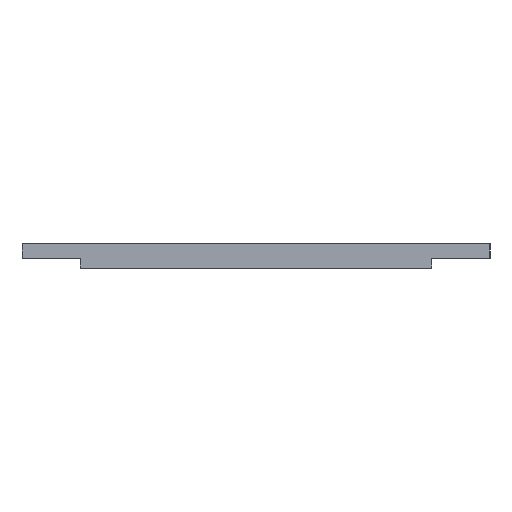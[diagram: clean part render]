
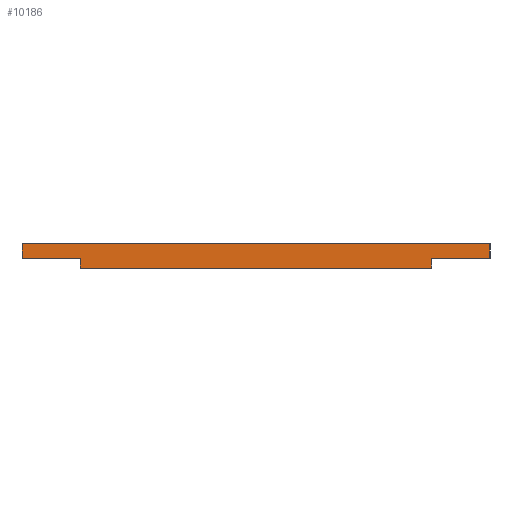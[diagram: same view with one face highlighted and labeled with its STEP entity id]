
A CAD part, left-side view. The second image highlights one B-rep face of the part: STEP entity #10186.
In plain terms, the highlighted planar face has unit normal (-1, 0, 0).
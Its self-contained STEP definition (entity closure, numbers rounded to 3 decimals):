
#156 = ORIENTED_EDGE ( 'NONE', *, *, #6951, .T. ) ;
#194 = VERTEX_POINT ( 'NONE', #11900 ) ;
#224 = CARTESIAN_POINT ( 'NONE',  ( -1442., 3., -0.17 ) ) ;
#229 = CARTESIAN_POINT ( 'NONE',  ( -1442., 0., 0.25 ) ) ;
#287 = EDGE_CURVE ( 'NONE', #5985, #5987, #7510, .T. ) ;
#419 = CARTESIAN_POINT ( 'NONE',  ( -1442., 2.6, 0.25 ) ) ;
#504 = CARTESIAN_POINT ( 'NONE',  ( -1442., -3., -0.17 ) ) ;
#658 = ORIENTED_EDGE ( 'NONE', *, *, #12324, .T. ) ;
#1008 = CARTESIAN_POINT ( 'NONE',  ( -1442., -2.6, 0.25 ) ) ;
#1085 = FACE_OUTER_BOUND ( 'NONE', #2245, .T. ) ;
#1161 = EDGE_CURVE ( 'NONE', #194, #10898, #10746, .T. ) ;
#1212 = EDGE_CURVE ( 'NONE', #5560, #4303, #9248, .T. ) ;
#1330 = CARTESIAN_POINT ( 'NONE',  ( -1442., 4., 0. ) ) ;
#1410 = ORIENTED_EDGE ( 'NONE', *, *, #287, .T. ) ;
#1883 = CARTESIAN_POINT ( 'NONE',  ( -1442., 0., 0.25 ) ) ;
#2100 = DIRECTION ( 'NONE',  ( 0., 0., 1. ) ) ;
#2126 = PLANE ( 'NONE',  #11991 ) ;
#2172 = CARTESIAN_POINT ( 'NONE',  ( -1442., -3., -0.17 ) ) ;
#2245 = EDGE_LOOP ( 'NONE', ( #2484, #156, #7783, #12639, #658, #11514, #4366, #11332, #6115, #1410, #11825, #10222 ) ) ;
#2375 = CARTESIAN_POINT ( 'NONE',  ( -1442., 0., 0. ) ) ;
#2484 = ORIENTED_EDGE ( 'NONE', *, *, #2925, .T. ) ;
#2600 = CARTESIAN_POINT ( 'NONE',  ( -1442., -4., 0.25 ) ) ;
#2660 = EDGE_CURVE ( 'NONE', #3899, #10898, #5983, .T. ) ;
#2925 = EDGE_CURVE ( 'NONE', #8060, #3725, #7419, .T. ) ;
#3243 = CARTESIAN_POINT ( 'NONE',  ( -1442., 0., 0.25 ) ) ;
#3725 = VERTEX_POINT ( 'NONE', #8617 ) ;
#3882 = CARTESIAN_POINT ( 'NONE',  ( -1442., -4., 0. ) ) ;
#3899 = VERTEX_POINT ( 'NONE', #3882 ) ;
#4081 = DIRECTION ( 'NONE',  ( 0., 0., -1. ) ) ;
#4294 = VERTEX_POINT ( 'NONE', #224 ) ;
#4303 = VERTEX_POINT ( 'NONE', #1008 ) ;
#4366 = ORIENTED_EDGE ( 'NONE', *, *, #6139, .T. ) ;
#4462 = DIRECTION ( 'NONE',  ( 0., -1., 0. ) ) ;
#4802 = VECTOR ( 'NONE', #2100, 1000. ) ;
#4873 = LINE ( 'NONE', #11653, #12210 ) ;
#4919 = LINE ( 'NONE', #12795, #5630 ) ;
#4978 = VECTOR ( 'NONE', #11077, 1000. ) ;
#5104 = CARTESIAN_POINT ( 'NONE',  ( -1442., 2.6, 0.25 ) ) ;
#5134 = LINE ( 'NONE', #6891, #4802 ) ;
#5197 = VERTEX_POINT ( 'NONE', #419 ) ;
#5198 = CARTESIAN_POINT ( 'NONE',  ( -1442., -4., 0.25 ) ) ;
#5226 = DIRECTION ( 'NONE',  ( 0., 0., 1. ) ) ;
#5560 = VERTEX_POINT ( 'NONE', #5104 ) ;
#5630 = VECTOR ( 'NONE', #9052, 1000. ) ;
#5843 = DIRECTION ( 'NONE',  ( 0., -1., 0. ) ) ;
#5908 = EDGE_CURVE ( 'NONE', #6825, #5197, #10970, .T. ) ;
#5983 = LINE ( 'NONE', #5198, #4978 ) ;
#5985 = VERTEX_POINT ( 'NONE', #1330 ) ;
#5987 = VERTEX_POINT ( 'NONE', #6313 ) ;
#6115 = ORIENTED_EDGE ( 'NONE', *, *, #8118, .T. ) ;
#6139 = EDGE_CURVE ( 'NONE', #5560, #5197, #5134, .T. ) ;
#6214 = DIRECTION ( 'NONE',  ( 0., -1., 0. ) ) ;
#6242 = VECTOR ( 'NONE', #4462, 1000. ) ;
#6248 = VECTOR ( 'NONE', #4081, 1000. ) ;
#6313 = CARTESIAN_POINT ( 'NONE',  ( -1442., 3., 0. ) ) ;
#6379 = EDGE_CURVE ( 'NONE', #8060, #4294, #8229, .T. ) ;
#6825 = VERTEX_POINT ( 'NONE', #9711 ) ;
#6891 = CARTESIAN_POINT ( 'NONE',  ( -1442., 2.6, -2971.755 ) ) ;
#6951 = EDGE_CURVE ( 'NONE', #3725, #3899, #4919, .T. ) ;
#7023 = CARTESIAN_POINT ( 'NONE',  ( -1442., 4., 0.25 ) ) ;
#7091 = LINE ( 'NONE', #7023, #11579 ) ;
#7204 = CARTESIAN_POINT ( 'NONE',  ( -1442., 0., -0.17 ) ) ;
#7362 = EDGE_CURVE ( 'NONE', #5987, #4294, #4873, .T. ) ;
#7419 = LINE ( 'NONE', #504, #11573 ) ;
#7510 = LINE ( 'NONE', #11567, #6242 ) ;
#7783 = ORIENTED_EDGE ( 'NONE', *, *, #2660, .T. ) ;
#7862 = DIRECTION ( 'NONE',  ( 0., 0., -1. ) ) ;
#8060 = VERTEX_POINT ( 'NONE', #2172 ) ;
#8065 = DIRECTION ( 'NONE',  ( -1., 0., 0. ) ) ;
#8118 = EDGE_CURVE ( 'NONE', #6825, #5985, #7091, .T. ) ;
#8229 = LINE ( 'NONE', #7204, #10379 ) ;
#8617 = CARTESIAN_POINT ( 'NONE',  ( -1442., -3., 0. ) ) ;
#9052 = DIRECTION ( 'NONE',  ( 0., -1., 0. ) ) ;
#9241 = VECTOR ( 'NONE', #5843, 1000. ) ;
#9248 = LINE ( 'NONE', #3243, #11716 ) ;
#9496 = DIRECTION ( 'NONE',  ( 0., 0., 1. ) ) ;
#9534 = DIRECTION ( 'NONE',  ( 0., 0., -1. ) ) ;
#9711 = CARTESIAN_POINT ( 'NONE',  ( -1442., 4., 0.25 ) ) ;
#10186 = ADVANCED_FACE ( 'NONE', ( #1085 ), #2126, .T. ) ;
#10222 = ORIENTED_EDGE ( 'NONE', *, *, #6379, .F. ) ;
#10379 = VECTOR ( 'NONE', #11323, 1000. ) ;
#10743 = LINE ( 'NONE', #11949, #6248 ) ;
#10746 = LINE ( 'NONE', #1883, #9241 ) ;
#10779 = VECTOR ( 'NONE', #11990, 1000. ) ;
#10898 = VERTEX_POINT ( 'NONE', #2600 ) ;
#10970 = LINE ( 'NONE', #229, #10779 ) ;
#11077 = DIRECTION ( 'NONE',  ( 0., 0., 1. ) ) ;
#11323 = DIRECTION ( 'NONE',  ( 0., 1., 0. ) ) ;
#11332 = ORIENTED_EDGE ( 'NONE', *, *, #5908, .F. ) ;
#11514 = ORIENTED_EDGE ( 'NONE', *, *, #1212, .F. ) ;
#11567 = CARTESIAN_POINT ( 'NONE',  ( -1442., 0., 0. ) ) ;
#11573 = VECTOR ( 'NONE', #9496, 1000. ) ;
#11579 = VECTOR ( 'NONE', #7862, 1000. ) ;
#11653 = CARTESIAN_POINT ( 'NONE',  ( -1442., 3., -0.17 ) ) ;
#11716 = VECTOR ( 'NONE', #6214, 1000. ) ;
#11825 = ORIENTED_EDGE ( 'NONE', *, *, #7362, .T. ) ;
#11900 = CARTESIAN_POINT ( 'NONE',  ( -1442., -2.6, 0.25 ) ) ;
#11949 = CARTESIAN_POINT ( 'NONE',  ( -1442., -2.6, -2971.755 ) ) ;
#11990 = DIRECTION ( 'NONE',  ( 0., -1., 0. ) ) ;
#11991 = AXIS2_PLACEMENT_3D ( 'NONE', #2375, #8065, #5226 ) ;
#12210 = VECTOR ( 'NONE', #9534, 1000. ) ;
#12324 = EDGE_CURVE ( 'NONE', #194, #4303, #10743, .T. ) ;
#12639 = ORIENTED_EDGE ( 'NONE', *, *, #1161, .F. ) ;
#12795 = CARTESIAN_POINT ( 'NONE',  ( -1442., 0., 0. ) ) ;
